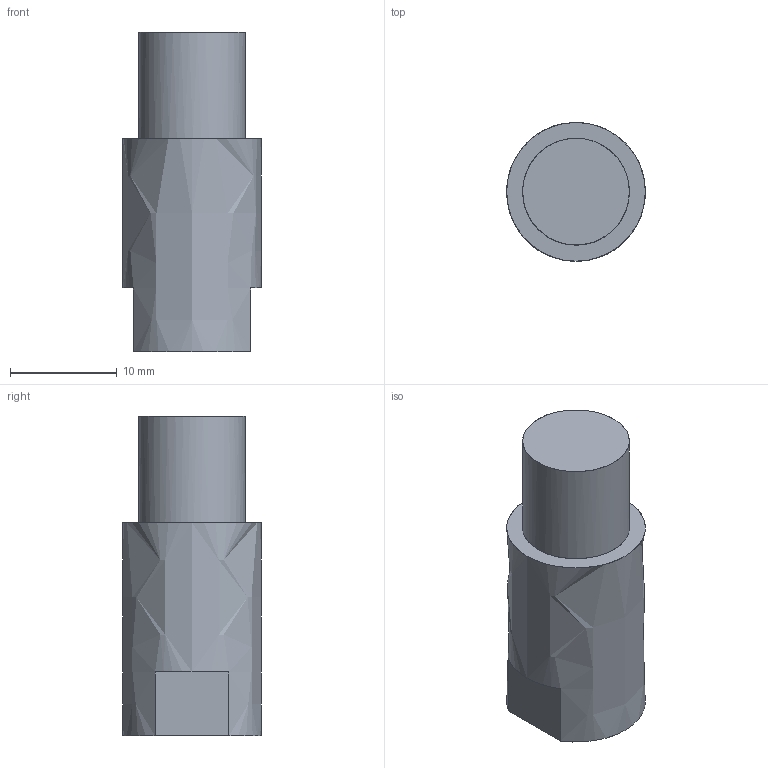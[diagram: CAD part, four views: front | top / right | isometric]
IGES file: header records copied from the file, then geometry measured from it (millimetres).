
Global section: file name: E:\lem\3DCAD_AC-L300-PB30.igs; native system: NX V8.5; preprocessor: SIEMENS PLM Software NX 8.5; date: 20151217.105502; units: millimetre
Bounding box: 13 x 13 x 30 mm (x, y, z)
Surface area: 1708.2 mm2 (no closed solid volume)
Topology: 0 solids, 0 shells, 11 faces, 87 edges, 85 vertices
Faces by surface type: bspline 11
